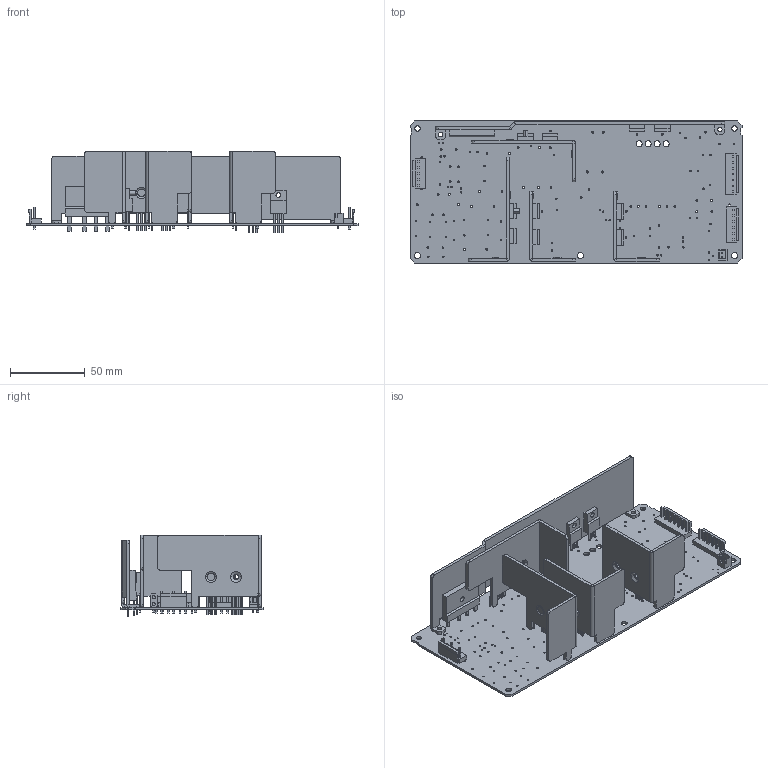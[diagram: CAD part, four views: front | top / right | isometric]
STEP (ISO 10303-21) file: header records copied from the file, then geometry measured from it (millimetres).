
FILE_DESCRIPTION((''),'2;1');
FILE_NAME('PWB_ASM','2019-07-18T',('ROCK.WEN'),(''),'PRO/ENGINEER BY PARAMETRIC TECHNOLOGY CORPORATION, 2015240','PRO/ENGINEER BY PARAMETRIC TECHNOLOGY CORPORATION, 2015240','');
FILE_SCHEMA(('CONFIG_CONTROL_DESIGN','SHAPE_APPEARANCE_LAYERS_GROUPS'));
Length unit declared in the file: millimetre
Products named in the file (16): PWB; HSK3; PIN; Q3; HSK3_ASM; HSK2; 3105456700; HSK2_ASM; HSK1; BD1; HSK1_ASM; B2B-XH-A; B5P-VH; B6P-VH; B7P-VH; PWB_ASM
Assembly tree (25 placements, depth 3):
  PWB_ASM
    PWB
    HSK3_ASM  x2
      HSK3
      PIN
      Q3
    HSK2_ASM  x2
      HSK2
      PIN
      Q3
      3105456700
    HSK1_ASM
      HSK1
      BD1
      Q3  x2
    B2B-XH-A
    B5P-VH
    B6P-VH
    B7P-VH
Bounding box: 222 x 95 x 54.8 mm (x, y, z)
Volume: 86687.1 mm3; surface area: 102856.5 mm2
Topology: 31 solids, 31 shells, 1347 faces, 3553 edges, 2338 vertices
Faces by surface type: plane 768, cylinder 553, cone 26
Entity records: 37245 total; most frequent: DIRECTION 5276, CARTESIAN_POINT 5011, ORIENTED_EDGE 4888, EDGE_CURVE 2444, PRESENTATION_STYLE_ASSIGNMENT 2111, STYLED_ITEM 1931, CURVE_STYLE 1926, AXIS2_PLACEMENT_3D 1873
